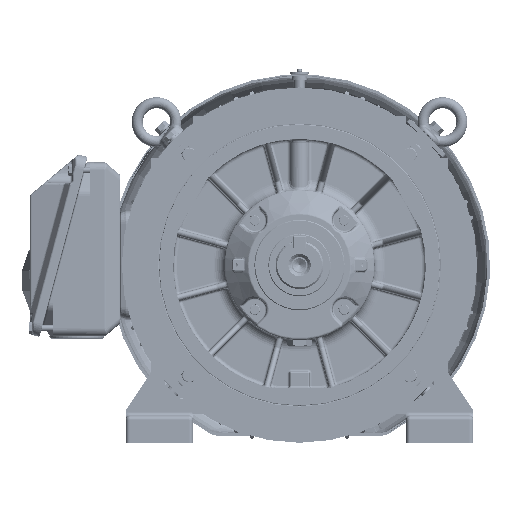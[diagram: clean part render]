
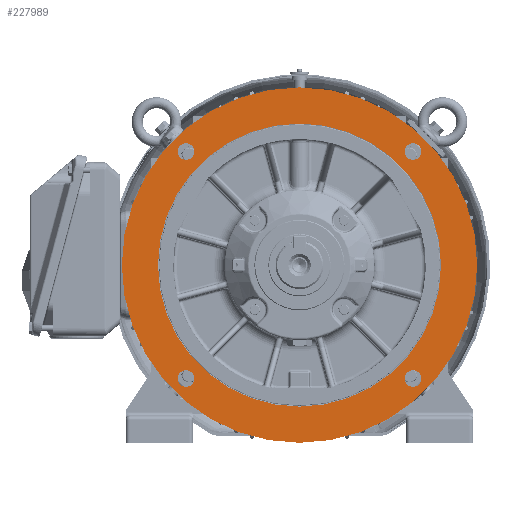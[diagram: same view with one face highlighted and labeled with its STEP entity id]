
A CAD part, front view. The second image highlights one B-rep face of the part: STEP entity #227989.
In plain terms, the highlighted planar face has unit normal (0, -1, 0).
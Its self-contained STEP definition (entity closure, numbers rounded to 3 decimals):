
#48822=ORIENTED_EDGE('',*,*,#91685,.F.);
#48823=ORIENTED_EDGE('',*,*,#91686,.F.);
#48824=ORIENTED_EDGE('',*,*,#90850,.F.);
#48825=ORIENTED_EDGE('',*,*,#90847,.F.);
#48826=ORIENTED_EDGE('',*,*,#90848,.F.);
#48827=ORIENTED_EDGE('',*,*,#90849,.F.);
#90847=EDGE_CURVE('',#113255,#113255,#127068,.T.);
#90848=EDGE_CURVE('',#113256,#113256,#127069,.T.);
#90849=EDGE_CURVE('',#113257,#113257,#127070,.T.);
#90850=EDGE_CURVE('',#113258,#113258,#127071,.T.);
#91685=EDGE_CURVE('',#113765,#113765,#127253,.T.);
#91686=EDGE_CURVE('',#113766,#113766,#127254,.T.);
#113255=VERTEX_POINT('',#316021);
#113256=VERTEX_POINT('',#316024);
#113257=VERTEX_POINT('',#316027);
#113258=VERTEX_POINT('',#316030);
#113765=VERTEX_POINT('',#319552);
#113766=VERTEX_POINT('',#319555);
#127068=CIRCLE('',#239016,10.5);
#127069=CIRCLE('',#239018,10.5);
#127070=CIRCLE('',#239020,10.5);
#127071=CIRCLE('',#239022,10.5);
#127253=CIRCLE('',#239632,224.995);
#127254=CIRCLE('',#239634,179.2);
#133496=EDGE_LOOP('',(#48822));
#133497=EDGE_LOOP('',(#48823));
#133498=EDGE_LOOP('',(#48824));
#133499=EDGE_LOOP('',(#48825));
#133500=EDGE_LOOP('',(#48826));
#133501=EDGE_LOOP('',(#48827));
#145310=FACE_BOUND('',#133496,.T.);
#145311=FACE_BOUND('',#133497,.T.);
#145312=FACE_BOUND('',#133498,.T.);
#145313=FACE_BOUND('',#133499,.T.);
#145314=FACE_BOUND('',#133500,.T.);
#145315=FACE_BOUND('',#133501,.T.);
#155645=PLANE('',#239633);
#227989=ADVANCED_FACE('',(#145310,#145311,#145312,#145313,#145314,#145315),
#155645,.F.);
#239016=AXIS2_PLACEMENT_3D('',#316020,#260014,#260015);
#239018=AXIS2_PLACEMENT_3D('',#316023,#260018,#260019);
#239020=AXIS2_PLACEMENT_3D('',#316026,#260022,#260023);
#239022=AXIS2_PLACEMENT_3D('',#316029,#260026,#260027);
#239632=AXIS2_PLACEMENT_3D('',#319551,#261685,#261686);
#239633=AXIS2_PLACEMENT_3D('',#319553,#261687,#261688);
#239634=AXIS2_PLACEMENT_3D('',#319554,#261689,#261690);
#260014=DIRECTION('',(0.,-1.,0.));
#260015=DIRECTION('',(1.,0.,0.));
#260018=DIRECTION('',(0.,-1.,0.));
#260019=DIRECTION('',(1.,0.,0.));
#260022=DIRECTION('',(0.,-1.,0.));
#260023=DIRECTION('',(1.,0.,0.));
#260026=DIRECTION('',(0.,-1.,0.));
#260027=DIRECTION('',(1.,0.,0.));
#261685=DIRECTION('',(0.,1.,0.));
#261686=DIRECTION('',(-1.,0.,0.));
#261687=DIRECTION('',(0.,1.,0.));
#261688=DIRECTION('',(-1.,0.,0.));
#261689=DIRECTION('',(0.,-1.,0.));
#261690=DIRECTION('',(1.,0.,0.));
#316020=CARTESIAN_POINT('',(-143.684,-85.5,-143.684));
#316021=CARTESIAN_POINT('',(-133.184,-85.5,-143.684));
#316023=CARTESIAN_POINT('',(143.684,-85.5,-143.684));
#316024=CARTESIAN_POINT('',(154.184,-85.5,-143.684));
#316026=CARTESIAN_POINT('',(143.684,-85.5,143.684));
#316027=CARTESIAN_POINT('',(154.184,-85.5,143.684));
#316029=CARTESIAN_POINT('',(-143.684,-85.5,143.684));
#316030=CARTESIAN_POINT('',(-133.184,-85.5,143.684));
#319551=CARTESIAN_POINT('',(0.,-85.5,0.));
#319552=CARTESIAN_POINT('',(-224.995,-85.5,0.));
#319553=CARTESIAN_POINT('',(-179.2,-85.5,0.));
#319554=CARTESIAN_POINT('',(0.,-85.5,0.));
#319555=CARTESIAN_POINT('',(179.2,-85.5,0.));
